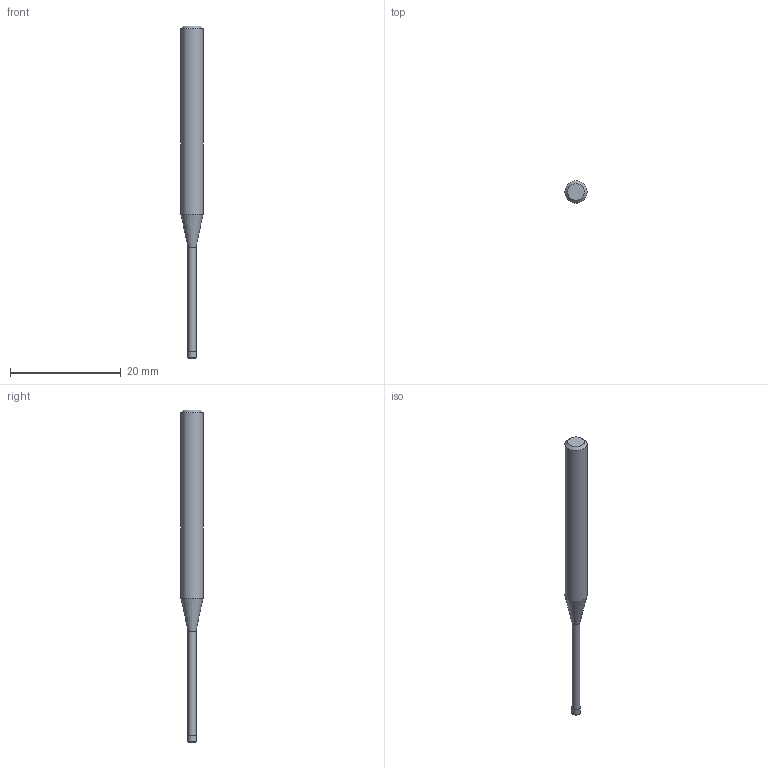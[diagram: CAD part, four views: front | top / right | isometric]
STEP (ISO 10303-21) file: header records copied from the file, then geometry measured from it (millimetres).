
FILE_DESCRIPTION((''),'2;1');
FILE_NAME('C:\Users\nsx150\AppData\Local\Temp\Mastercam 2021\17T8Q8S9EB\TEMP.step','2021-04-21T14:35:41',(''),(''),'STEP Write','Mastercam 2021 ... CNC Software, Inc.','');
FILE_SCHEMA(('AUTOMOTIVE_DESIGN'));
Length unit declared in the file: millimetre
Products named in the file (1): None
Bounding box: 4 x 4 x 60 mm (x, y, z)
Volume: 496.5 mm3; surface area: 584.6 mm2
Topology: 2 solids, 2 shells, 10 faces, 14 edges, 8 vertices
Faces by surface type: plane 4, cylinder 3, cone 2, torus 1
Full cylindrical faces by diameter (mm): 1.45 x1, 1.5 x1, 4 x1
Entity records: 232 total; most frequent: DIRECTION 40, CARTESIAN_POINT 28, AXIS2_PLACEMENT_3D 20, ORIENTED_EDGE 16, EDGE_LOOP 16, STYLED_ITEM 13, ADVANCED_FACE 10, FACE_BOUND 10
